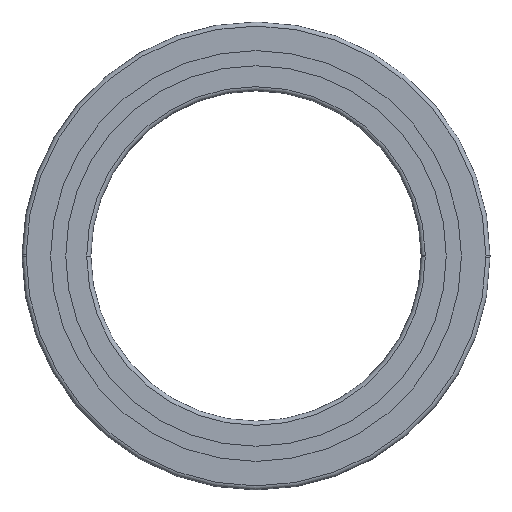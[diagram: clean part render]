
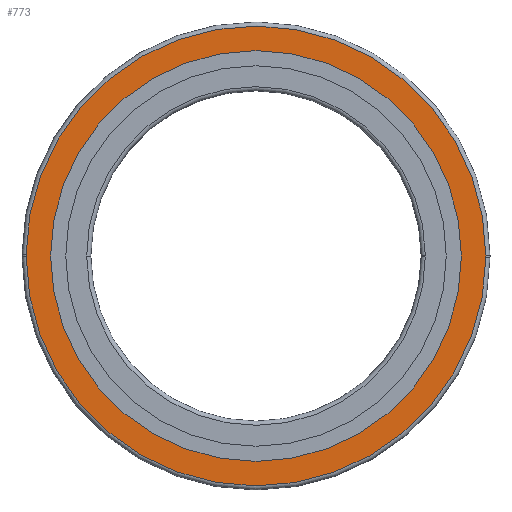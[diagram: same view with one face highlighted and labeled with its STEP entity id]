
A CAD part, front view. The second image highlights one B-rep face of the part: STEP entity #773.
In plain terms, the highlighted planar face has unit normal (0, -1, 0).
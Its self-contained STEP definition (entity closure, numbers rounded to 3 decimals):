
#403=EDGE_CURVE('',#575,#611,#951,.T.);
#415=VERTEX_POINT('',#966);
#431=EDGE_CURVE('',#539,#575,#983,.T.);
#485=VERTEX_POINT('',#1040);
#529=EDGE_CURVE('',#415,#485,#1091,.T.);
#539=VERTEX_POINT('',#1103);
#575=VERTEX_POINT('',#1141);
#611=VERTEX_POINT('',#1185);
#683=VERTEX_POINT('',#1264);
#715=EDGE_CURVE('',#683,#539,#1298,.T.);
#757=EDGE_CURVE('',#485,#415,#1350,.T.);
#769=EDGE_CURVE('',#611,#683,#1362,.T.);
#773=ADVANCED_FACE('',(#1367,#1368),#1369,.F.);
#951=CIRCLE('',#1581,83.5);
#966=CARTESIAN_POINT('',(74.6,0.0,0.0));
#983=CIRCLE('',#1619,83.5);
#1040=CARTESIAN_POINT('',(-74.6,0.0,0.0));
#1091=CIRCLE('',#1761,74.6);
#1103=CARTESIAN_POINT('',(83.498,0.0,-0.516));
#1141=CARTESIAN_POINT('',(83.5,0.0,0.0));
#1185=CARTESIAN_POINT('',(-83.498,0.0,0.516));
#1264=CARTESIAN_POINT('',(-83.5,0.0,0.));
#1298=CIRCLE('',#2006,83.5);
#1350=CIRCLE('',#2069,74.6);
#1362=CIRCLE('',#2085,83.5);
#1367=FACE_OUTER_BOUND('',#2090,.T.);
#1368=FACE_BOUND('',#2091,.T.);
#1369=PLANE('',#2092);
#1581=AXIS2_PLACEMENT_3D('',#2289,#2290,#2291);
#1619=AXIS2_PLACEMENT_3D('',#2335,#2336,#2337);
#1761=AXIS2_PLACEMENT_3D('',#2485,#2486,#2487);
#2006=AXIS2_PLACEMENT_3D('',#2754,#2755,#2756);
#2069=AXIS2_PLACEMENT_3D('',#2842,#2843,#2844);
#2085=AXIS2_PLACEMENT_3D('',#2849,#2850,#2851);
#2090=EDGE_LOOP('',(#2861,#2862,#2863,#2864));
#2091=EDGE_LOOP('',(#2865,#2866));
#2092=AXIS2_PLACEMENT_3D('',#2867,#2868,#2869);
#2289=CARTESIAN_POINT('',(0.0,0.0,0.0));
#2290=DIRECTION('',(0.0,-1.0,0.0));
#2291=DIRECTION('',(1.0,0.0,0.0));
#2335=CARTESIAN_POINT('',(0.0,0.0,0.0));
#2336=DIRECTION('',(0.0,-1.0,0.0));
#2337=DIRECTION('',(-1.0,0.0,0.0));
#2485=CARTESIAN_POINT('',(0.0,0.0,0.0));
#2486=DIRECTION('',(0.0,-1.0,0.0));
#2487=DIRECTION('',(1.0,0.0,0.0));
#2754=CARTESIAN_POINT('',(0.0,0.0,0.0));
#2755=DIRECTION('',(0.0,-1.0,0.0));
#2756=DIRECTION('',(-1.0,0.0,0.0));
#2842=CARTESIAN_POINT('',(0.0,0.0,0.0));
#2843=DIRECTION('',(0.0,-1.0,0.0));
#2844=DIRECTION('',(-1.0,0.0,0.0));
#2849=CARTESIAN_POINT('',(0.0,0.0,0.0));
#2850=DIRECTION('',(0.0,-1.0,0.0));
#2851=DIRECTION('',(1.0,0.0,0.0));
#2861=ORIENTED_EDGE('',*,*,#403,.T.);
#2862=ORIENTED_EDGE('',*,*,#769,.T.);
#2863=ORIENTED_EDGE('',*,*,#715,.T.);
#2864=ORIENTED_EDGE('',*,*,#431,.T.);
#2865=ORIENTED_EDGE('',*,*,#757,.F.);
#2866=ORIENTED_EDGE('',*,*,#529,.F.);
#2867=CARTESIAN_POINT('',(0.0,0.0,0.0));
#2868=DIRECTION('',(0.0,1.0,0.0));
#2869=DIRECTION('',(1.0,0.0,-0.0));
